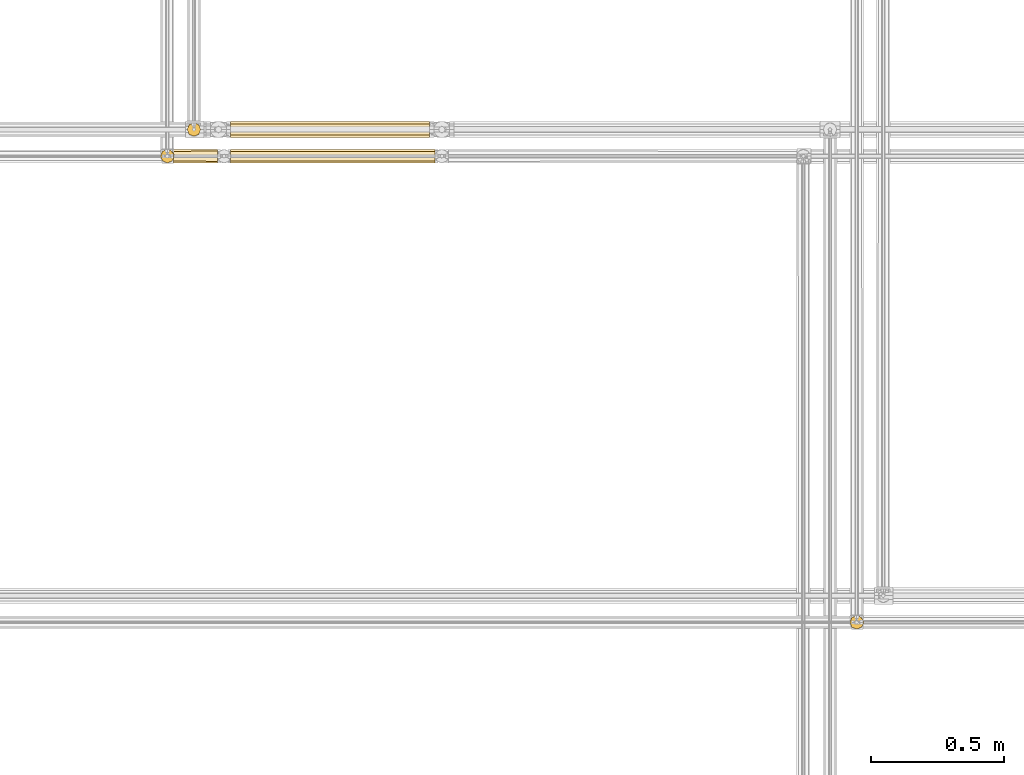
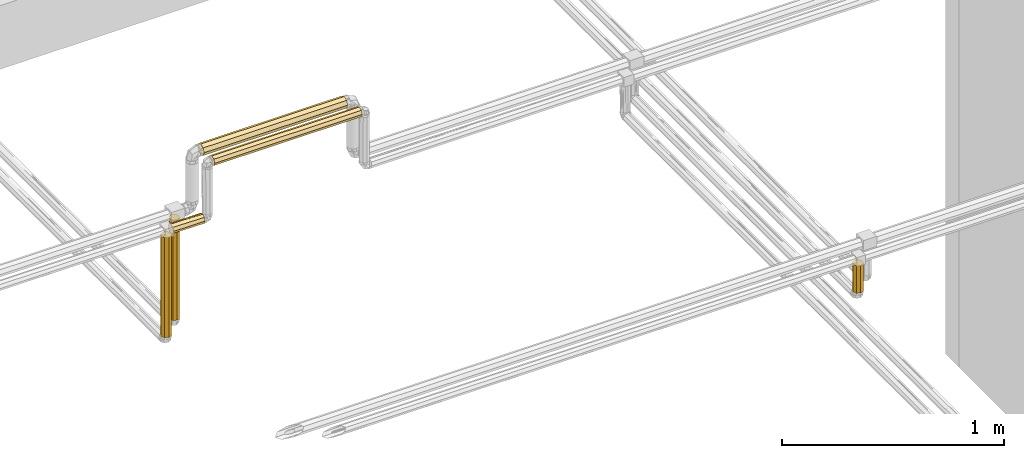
# One storey, part 204 of 652: 6 coverings.
"""IFC2X3 building model written with IfcOpenShell, lengths in millimetres."""

from ifc_helpers import new_model, entity, si_unit, converted_unit, direction, frame, origin, place, context, subcontext, project, spatial, faceted_brep, material, type_object, element, save


model = new_model("IFC2X3")

# Units and contexts
model_context = context("Model", 3, precision=0.01, world=frame((0.0, 0.0, 308426.39999999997)), true_north=direction((6.123233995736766e-17, 1.0)))
plan_context = context("Plan", 3, precision=0.01, world=frame((0.0, 0.0, 308426.39999999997)), true_north=direction((6.123233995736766e-17, 1.0)))
body_context = subcontext(model_context, "Body", "Model", "MODEL_VIEW")
ifc_project = project(units=[si_unit("LENGTHUNIT", "METRE", prefix="MILLI"), si_unit("AREAUNIT", "SQUARE_METRE"), si_unit("VOLUMEUNIT", "CUBIC_METRE"), converted_unit("PLANEANGLEUNIT", "DEGREE", entity("IfcPlaneAngleMeasure", 0.017453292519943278), si_unit("PLANEANGLEUNIT", "RADIAN"), dimensions=[0, 0, 0, 0, 0, 0, 0])], contexts=[model_context, plan_context])

# Site, building, storey
site_placement = place(None, origin())
site = spatial("IfcSite", under=ifc_project, at=site_placement, Name="Default", CompositionType="ELEMENT")
building_placement = place(site_placement, origin())
building = spatial("IfcBuilding", under=site, at=building_placement, CompositionType="ELEMENT")
storey_placement = place(building_placement, frame((0.0, 0.0, 1730.6999999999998)))
storey = spatial("IfcBuildingStorey", under=building, at=storey_placement, Name="EG_Produktion_FFB", CompositionType="ELEMENT", Elevation=1730.6999999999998)

# Coverings
ifc_material = material(Name="Dämmung - Armaflex-Schlauch")
covering_type = type_object("IfcCoveringType", Name="Rohrdämmung außen:Armaflex-Schlauch", PredefinedType="INSULATION")
covering_1_placement = place(storey_placement, frame((40393.05472776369, 68038.05472776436, 3723.371727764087)))
element("IfcCovering", 1, at=covering_1_placement, inside=storey, type_object=covering_type, material=ifc_material, Name="Rohrdämmung außen:Armaflex-Schlauch", ObjectType="Rohrdämmung außen:Armaflex-Schlauch", PredefinedType="INSULATION", context=body_context, shape_type="Brep", body=[
    faceted_brep([(50.9442722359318, 35.11047272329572, 152.6292722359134), (47.96725702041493, 38.63935937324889, 152.62927223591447), (44.990241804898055, 42.16824602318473, 152.62927223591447), (42.01322658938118, 45.697132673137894, 152.6292722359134), (39.03621137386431, 49.22601932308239, 152.6292722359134), (32.990741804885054, 50.760645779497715, 152.6292722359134), (26.94527223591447, 52.29527223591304, 152.6292722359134), (22.463983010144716, 50.43906146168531, 152.6292722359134), (17.982693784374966, 48.582850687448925, 152.6292722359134), (13.501404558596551, 46.7266399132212, 152.6292722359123), (9.020115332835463, 44.87042913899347, 152.6292722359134), (7.1639045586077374, 40.38913991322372, 152.6292722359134), (5.30769378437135, 35.90785068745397, 152.6292722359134), (3.4514830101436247, 31.42656146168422, 152.6292722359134), (1.5952722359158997, 26.94527223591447, 152.6292722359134), (3.515826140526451, 22.30864495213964, 152.6292722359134), (5.30769378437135, 17.982693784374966, 152.6292722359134), (7.1639045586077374, 13.501404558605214, 152.6292722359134), (9.020115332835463, 9.020115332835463, 152.6292722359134), (13.501404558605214, 7.1639045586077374, 152.6292722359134), (17.982693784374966, 5.307693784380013, 152.6292722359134), (22.308644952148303, 3.515826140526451, 152.6292722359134), (26.94527223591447, 1.5952722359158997, 152.6292722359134), (31.63100083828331, 3.4282382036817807, 152.6292722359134), (36.316729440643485, 5.261204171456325, 152.6292722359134), (44.146028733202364, 8.323873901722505, 152.6292722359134), (47.54515048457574, 13.55197282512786, 152.6292722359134), (50.9442722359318, 18.780071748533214, 152.6292722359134), (50.43906146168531, 22.463983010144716, 1.595272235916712), (48.58285068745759, 17.982693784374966, 1.595272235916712), (46.7266399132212, 13.501404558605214, 1.595272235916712), (44.87042913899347, 9.020115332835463, 1.595272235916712), (40.38913991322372, 7.163904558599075, 1.595272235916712), (35.90785068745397, 5.307693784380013, 1.595272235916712), (31.581899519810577, 3.515826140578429, 1.595272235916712), (26.94527223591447, 1.5952722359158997, 1.595272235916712), (22.308644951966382, 3.5158261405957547, 1.595272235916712), (17.67201766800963, 5.436380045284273, 1.595272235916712), (13.346066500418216, 7.2282476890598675, 1.595272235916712), (9.020115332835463, 9.020115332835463, 1.595272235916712), (7.1639045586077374, 13.501404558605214, 1.595272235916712), (5.30769378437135, 17.982693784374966, 1.595272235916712), (3.4514830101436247, 22.463983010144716, 1.595272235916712), (1.5952722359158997, 26.94527223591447, 1.595272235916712), (3.322427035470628, 31.686350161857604, 1.595272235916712), (4.565344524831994, 35.09818601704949, 1.595272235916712), (6.0503806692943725, 39.174642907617, 1.595272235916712), (7.535416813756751, 43.25109979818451, 1.595272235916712), (15.045383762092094, 47.58168601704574, 1.595272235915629), (22.55535071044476, 51.91227223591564, 1.595272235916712), (31.335193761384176, 51.91227223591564, 1.595272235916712), (38.845160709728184, 47.58168601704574, 1.595272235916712), (46.355127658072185, 43.25109979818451, 1.595272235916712), (47.84016380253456, 39.174642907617, 1.595272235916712), (49.32519994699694, 35.09818601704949, 1.595272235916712), (50.81023609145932, 31.02172912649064, 1.595272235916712), (52.29527223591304, 26.94527223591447, 1.595272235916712), (52.29527223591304, 26.94527223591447, 151.2782722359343), (51.955241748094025, 31.083378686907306, 151.61830272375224), (29.148570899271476, 52.19934072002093, 1.8823407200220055), (26.94527223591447, 52.29527223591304, 1.978272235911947), (24.74197357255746, 52.19934072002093, 1.8823407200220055), (51.955241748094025, 22.807165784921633, 151.61830272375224)], [[[0, 1, 2, 3, 4, 5, 6, 7, 8, 9, 10, 11, 12, 13, 14, 15, 16, 17, 18, 19, 20, 21, 22, 23, 24, 25, 26, 27]], [[28, 29, 30, 31, 32, 33, 34, 35, 36, 37, 38, 39, 40, 41, 42, 43, 44, 45, 46, 47, 48, 49, 50, 51, 52, 53, 54, 55, 56]], [[54, 0, 55]], [[51, 3, 52]], [[57, 56, 58]], [[53, 52, 2]], [[51, 50, 5]], [[1, 54, 53]], [[3, 51, 4]], [[51, 5, 4]], [[58, 56, 55]], [[5, 59, 6]], [[6, 59, 60]], [[54, 1, 0]], [[55, 0, 58]], [[53, 2, 1]], [[2, 52, 3]], [[59, 5, 50]], [[49, 8, 7]], [[46, 45, 12]], [[7, 61, 49]], [[8, 49, 48]], [[46, 12, 11]], [[43, 14, 13]], [[45, 13, 12]], [[11, 47, 46]], [[48, 10, 9, 8]], [[13, 45, 44, 43]], [[61, 6, 60]], [[10, 48, 47]], [[10, 47, 11]], [[6, 61, 7]], [[14, 43, 42, 41, 40, 39, 18, 17, 16, 15]], [[18, 39, 38, 37, 36, 35, 22, 21, 20, 19]], [[25, 32, 31]], [[28, 56, 62]], [[33, 24, 23]], [[22, 35, 23]], [[26, 31, 30, 29]], [[33, 23, 35, 34]], [[28, 27, 29]], [[27, 28, 62]], [[24, 32, 25]], [[56, 57, 62]], [[31, 26, 25]], [[24, 33, 32]], [[26, 29, 27]], [[0, 27, 62, 57, 58]], [[49, 61, 60, 59, 50]]]),
])
covering_2_placement = place(storey_placement, frame((37905.36716089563, 69888.05472776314, 3323.371727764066)))
element("IfcCovering", 2, at=covering_2_placement, inside=storey, type_object=covering_type, material=ifc_material, Name="Rohrdämmung außen:Armaflex-Schlauch", ObjectType="Rohrdämmung außen:Armaflex-Schlauch", PredefinedType="INSULATION", context=body_context, shape_type="Brep", body=[
    faceted_brep([(52.29527223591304, 26.94527223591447, 552.6292722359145), (50.18963852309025, 32.02872170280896, 552.6292722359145), (48.58285068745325, 35.90785068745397, 552.6292722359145), (46.72663991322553, 40.38913991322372, 552.6292722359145), (44.87042913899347, 44.87042913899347, 552.6292722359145), (40.38913991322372, 46.7266399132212, 552.6292722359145), (35.90785068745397, 48.582850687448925, 552.6292722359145), (31.42656146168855, 50.43906146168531, 552.6292722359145), (26.94527223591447, 52.29527223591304, 552.6292722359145), (22.463983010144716, 50.43906146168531, 552.6292722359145), (17.982693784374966, 48.582850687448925, 552.6292722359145), (13.501404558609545, 46.72663991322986, 552.6292722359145), (9.020115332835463, 44.87042913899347, 552.6292722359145), (7.1639045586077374, 40.38913991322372, 552.6292722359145), (5.307693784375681, 35.90785068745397, 552.6292722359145), (3.4514830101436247, 31.42656146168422, 552.6292722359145), (1.5952722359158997, 26.94527223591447, 552.6292722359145), (3.7009059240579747, 21.861822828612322, 552.6292722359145), (5.307693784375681, 17.982693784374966, 552.6292722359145), (7.1639045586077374, 13.501404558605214, 552.6292722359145), (9.020115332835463, 9.020115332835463, 552.6292722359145), (13.501404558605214, 7.1639045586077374, 552.6292722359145), (17.982693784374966, 5.307693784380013, 552.6292722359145), (22.463983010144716, 3.4514830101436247, 552.6292722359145), (26.94527223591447, 1.5952722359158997, 552.6292722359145), (32.02872164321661, 3.7009059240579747, 552.6292722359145), (35.90785068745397, 5.307693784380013, 552.6292722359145), (40.38913991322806, 7.1639045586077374, 552.6292722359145), (44.87042913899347, 9.020115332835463, 552.6292722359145), (46.72663991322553, 13.501404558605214, 552.6292722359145), (48.58285068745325, 17.982693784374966, 552.6292722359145), (50.43906146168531, 22.463983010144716, 552.6292722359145), (31.33519376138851, 51.91227223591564, 1.595272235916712), (38.84516070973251, 47.5816860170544, 1.595272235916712), (46.355127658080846, 43.251099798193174, 1.595272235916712), (48.508077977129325, 37.341203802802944, 1.595272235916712), (50.40167510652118, 32.143238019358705, 1.595272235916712), (52.29527223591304, 26.94527223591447, 1.595272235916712), (50.1896385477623, 21.86182282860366, 1.595272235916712), (48.08400485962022, 16.77837342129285, 1.595272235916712), (44.87042913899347, 9.020115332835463, 1.595272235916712), (40.38913991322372, 7.163904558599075, 1.595272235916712), (35.90785068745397, 5.30769378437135, 1.595272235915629), (31.42656146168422, 3.4514830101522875, 1.595272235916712), (26.94527223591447, 1.5952722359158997, 1.595272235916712), (21.86182282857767, 3.7009059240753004, 1.595272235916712), (16.778373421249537, 5.806539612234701, 1.5952722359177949), (9.020115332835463, 9.020115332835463, 1.595272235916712), (7.1639045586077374, 13.501404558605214, 1.595272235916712), (5.307693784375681, 17.982693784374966, 1.595272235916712), (3.4514830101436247, 22.463983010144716, 1.595272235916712), (1.5952722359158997, 26.94527223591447, 1.595272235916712), (3.488869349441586, 32.14323797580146, 1.595272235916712), (4.565344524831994, 35.09818601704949, 1.595272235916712), (6.0503806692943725, 39.17464290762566, 1.595272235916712), (7.535416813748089, 43.251099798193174, 1.595272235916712), (15.045383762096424, 47.5816860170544, 1.595272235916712), (22.55535071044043, 51.91227223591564, 1.595272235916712), (29.148570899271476, 52.19934072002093, 1.8823407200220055), (26.94527223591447, 52.29527223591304, 1.978272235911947), (24.74197357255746, 52.19934072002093, 1.8823407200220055)], [[[0, 1, 2, 3, 4, 5, 6, 7, 8, 9, 10, 11, 12, 13, 14, 15, 16, 17, 18, 19, 20, 21, 22, 23, 24, 25, 26, 27, 28, 29, 30, 31]], [[32, 33, 34, 35, 36, 37, 38, 39, 40, 41, 42, 43, 44, 45, 46, 47, 48, 49, 50, 51, 52, 53, 54, 55, 56, 57]], [[3, 2, 35]], [[35, 2, 36]], [[36, 2, 1, 0]], [[58, 7, 32]], [[33, 32, 6]], [[35, 34, 3]], [[8, 58, 59]], [[33, 6, 5, 4]], [[7, 6, 32]], [[34, 4, 3]], [[33, 4, 34]], [[36, 0, 37]], [[7, 58, 8]], [[57, 10, 9]], [[54, 53, 14]], [[9, 60, 57]], [[10, 57, 56]], [[54, 14, 13]], [[51, 16, 15]], [[53, 15, 14]], [[13, 55, 54]], [[56, 12, 11, 10]], [[15, 53, 52, 51]], [[60, 8, 59]], [[12, 56, 55]], [[12, 55, 13]], [[8, 60, 9]], [[44, 24, 23, 22, 21, 20, 47, 46, 45]], [[19, 18, 17, 16, 51, 50, 49, 48, 47, 20]], [[37, 0, 31, 30, 29, 28, 40, 39, 38]], [[27, 26, 25, 24, 44, 43, 42, 41, 40, 28]], [[57, 60, 59, 58, 32]]]),
])
covering_3_placement = place(storey_placement, frame((37805.36716089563, 69788.05472776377, 3323.371727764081)))
element("IfcCovering", 3, at=covering_3_placement, inside=storey, type_object=covering_type, material=ifc_material, Name="Rohrdämmung außen:Armaflex-Schlauch", ObjectType="Rohrdämmung außen:Armaflex-Schlauch", PredefinedType="INSULATION", context=body_context, shape_type="Brep", body=[
    faceted_brep([(26.94527223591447, 1.5952722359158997, 552.6292722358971), (32.08255475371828, 3.604877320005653, 552.6292722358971), (37.21983727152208, 5.614482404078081, 552.6292722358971), (44.14602873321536, 8.323873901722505, 552.6292722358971), (47.545150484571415, 13.55197282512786, 552.6292722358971), (50.9442722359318, 18.780071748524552, 552.6292722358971), (50.9442722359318, 35.11047272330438, 552.6292722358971), (47.96725702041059, 38.63935937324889, 552.6292722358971), (44.99024180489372, 42.16824602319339, 552.6292722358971), (42.013226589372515, 45.697132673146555, 552.6292722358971), (39.03621137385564, 49.22601932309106, 552.6292722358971), (32.99074180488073, 50.760645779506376, 552.6292722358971), (26.94527223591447, 52.29527223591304, 552.6292722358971), (22.463983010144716, 50.43906146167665, 552.6292722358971), (17.982693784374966, 48.58285068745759, 552.6292722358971), (13.501404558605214, 46.7266399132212, 552.6292722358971), (9.020115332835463, 44.87042913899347, 552.6292722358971), (7.1639045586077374, 40.389139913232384, 552.6292722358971), (5.307693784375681, 35.90785068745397, 552.6292722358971), (3.4514830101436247, 31.42656146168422, 552.6292722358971), (1.5952722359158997, 26.94527223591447, 552.6292722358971), (3.7009059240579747, 21.861822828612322, 552.6292722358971), (5.307693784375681, 17.982693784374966, 552.6292722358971), (7.1639045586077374, 13.501404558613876, 552.6292722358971), (9.020115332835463, 9.020115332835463, 552.6292722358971), (13.501404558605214, 7.1639045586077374, 552.6292722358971), (17.982693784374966, 5.30769378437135, 552.6292722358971), (22.463983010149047, 3.4514830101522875, 552.6292722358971), (22.55535071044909, 51.91227223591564, 1.595272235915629), (31.335193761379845, 51.91227223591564, 1.595272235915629), (38.845160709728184, 47.5816860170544, 1.595272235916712), (46.35512765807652, 43.251099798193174, 1.595272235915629), (47.840163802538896, 39.17464290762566, 1.595272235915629), (49.32519994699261, 35.098186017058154, 1.595272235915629), (50.81023609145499, 31.02172912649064, 1.595272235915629), (52.29527223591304, 26.94527223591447, 1.595272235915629), (50.43906146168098, 22.463983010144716, 1.595272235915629), (48.58285068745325, 17.982693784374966, 1.595272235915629), (46.72663991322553, 13.501404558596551, 1.595272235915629), (44.87042913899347, 9.020115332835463, 1.595272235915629), (40.38913991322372, 7.1639045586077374, 1.595272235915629), (35.90785068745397, 5.30769378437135, 1.595272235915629), (31.42656146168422, 3.4514830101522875, 1.595272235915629), (26.94527223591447, 1.5952722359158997, 1.595272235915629), (21.86182282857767, 3.7009059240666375, 1.595272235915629), (16.77837342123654, 5.806539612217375, 1.595272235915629), (9.020115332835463, 9.020115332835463, 1.595272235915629), (7.1639045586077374, 13.501404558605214, 1.595272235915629), (5.307693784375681, 17.982693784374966, 1.595272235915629), (3.4514830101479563, 22.46398301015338, 1.595272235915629), (1.5952722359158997, 26.94527223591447, 1.595272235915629), (3.488869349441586, 32.14323797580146, 1.595272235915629), (4.565344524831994, 35.098186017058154, 1.595272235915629), (6.050380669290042, 39.174642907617, 1.595272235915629), (7.53541681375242, 43.251099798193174, 1.595272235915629), (15.045383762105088, 47.58168601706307, 1.595272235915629), (52.29527223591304, 26.94527223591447, 551.2782722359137), (51.955241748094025, 31.083378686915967, 551.6183027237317), (29.148570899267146, 52.19934072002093, 1.8823407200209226), (26.94527223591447, 52.29527223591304, 1.978272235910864), (24.74197357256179, 52.19934072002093, 1.8823407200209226), (51.955241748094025, 22.807165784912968, 551.6183027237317)], [[[0, 1, 2, 3, 4, 5, 6, 7, 8, 9, 10, 11, 12, 13, 14, 15, 16, 17, 18, 19, 20, 21, 22, 23, 24, 25, 26, 27]], [[28, 29, 30, 31, 32, 33, 34, 35, 36, 37, 38, 39, 40, 41, 42, 43, 44, 45, 46, 47, 48, 49, 50, 51, 52, 53, 54, 55]], [[33, 6, 34]], [[30, 9, 31]], [[56, 35, 57]], [[32, 31, 8]], [[30, 29, 11]], [[7, 33, 32]], [[9, 30, 10]], [[30, 11, 10]], [[57, 35, 34]], [[11, 58, 12]], [[12, 58, 59]], [[33, 7, 6]], [[34, 6, 57]], [[32, 8, 7]], [[8, 31, 9]], [[58, 11, 29]], [[28, 14, 13]], [[53, 52, 18]], [[13, 60, 28]], [[14, 28, 55]], [[53, 18, 17]], [[50, 20, 19]], [[52, 19, 18]], [[17, 54, 53]], [[55, 16, 15, 14]], [[19, 52, 51, 50]], [[60, 12, 59]], [[16, 55, 54]], [[16, 54, 17]], [[12, 60, 13]], [[43, 0, 27, 26, 25, 24, 46, 45, 44]], [[23, 22, 21, 20, 50, 49, 48, 47, 46, 24]], [[3, 40, 39]], [[36, 35, 61]], [[2, 1, 41]], [[4, 39, 38, 37]], [[4, 37, 5]], [[36, 5, 37]], [[5, 36, 61]], [[0, 42, 1]], [[2, 41, 40]], [[35, 56, 61]], [[39, 4, 3]], [[3, 2, 40]], [[42, 0, 43]], [[42, 41, 1]], [[6, 5, 61, 56, 57]], [[28, 60, 59, 58, 29]]]),
])
covering_4_placement = place(storey_placement, frame((38070.37793313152, 69883.29222776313, 4231.707772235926)))
element("IfcCovering", 4, at=covering_4_placement, inside=storey, type_object=covering_type, material=ifc_material, Name="Rohrdämmung außen:Armaflex-Schlauch", ObjectType="Rohrdämmung außen:Armaflex-Schlauch", PredefinedType="INSULATION", context=body_context, shape_type="Brep", body=[
    faceted_brep([(746.5565668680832, 61.82027223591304, -31.70777223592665), (746.5565668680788, 59.80816199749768, -26.850108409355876), (746.5565668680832, 57.410398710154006, -21.06139576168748), (746.5565668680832, 55.20546194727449, -15.738207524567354), (746.5565668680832, 53.000525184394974, -10.415019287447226), (746.5565668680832, 47.67733694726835, -8.210082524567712), (746.5565668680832, 42.35414871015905, -6.005145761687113), (746.5565668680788, 37.03096047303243, -3.8002089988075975), (746.5565668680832, 31.70777223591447, -1.595272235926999), (746.5565668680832, 26.850108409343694, -3.6073824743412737), (746.5565668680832, 21.061395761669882, -6.005145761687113), (746.5565668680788, 15.738207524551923, -8.210082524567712), (746.5565668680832, 10.415019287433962, -10.415019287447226), (746.5565668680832, 8.210082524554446, -15.738207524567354), (746.5565668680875, 6.005145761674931, -21.0613957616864), (746.5565668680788, 3.8002089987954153, -26.384583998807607), (746.5565668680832, 1.5952722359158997, -31.70777223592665), (746.5565668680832, 3.8002089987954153, -37.030960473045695), (746.5565668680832, 6.005145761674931, -42.35414871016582), (746.5565668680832, 8.210082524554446, -47.67733694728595), (746.5565668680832, 10.415019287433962, -53.00052518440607), (746.5565668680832, 15.738207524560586, -55.20546194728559), (746.5565668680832, 21.061395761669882, -57.41039871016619), (746.5565668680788, 26.384583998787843, -59.615335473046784), (746.5565668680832, 31.70777223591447, -61.8202722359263), (746.5565668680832, 36.56543606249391, -59.808161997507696), (746.5565668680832, 42.35414871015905, -57.41039871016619), (746.5565668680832, 47.67733694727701, -55.20546194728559), (746.5565668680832, 53.000525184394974, -53.00052518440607), (746.5565668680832, 55.20546194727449, -47.67733694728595), (746.5565668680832, 57.410398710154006, -42.35414871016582), (746.5565668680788, 59.61533547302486, -37.030960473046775), (0.0, 47.677336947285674, -55.20546194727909), (0.0, 42.35414871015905, -57.41039871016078), (0.0, 37.03096047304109, -59.61533547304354), (0.0, 31.70777223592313, -61.820272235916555), (0.0, 26.850108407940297, -59.808161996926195), (0.0, 21.992444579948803, -57.796051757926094), (0.0, 16.20373193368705, -55.398288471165), (0.0, 10.415019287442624, -53.00052518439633), (0.0, 8.210082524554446, -47.677336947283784), (0.0, 6.005145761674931, -42.35414871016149), (0.0, 3.8002089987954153, -37.030960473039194), (0.0, 1.5952722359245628, -31.707772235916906), (0.0, 3.60738247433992, -26.850108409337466), (0.0, 5.619492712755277, -21.992444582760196), (0.0, 8.017256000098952, -16.203731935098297), (0.0, 10.415019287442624, -10.415019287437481), (0.0, 15.738207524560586, -8.21008252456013), (0.0, 21.06139576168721, -6.005145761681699), (0.0, 26.38458399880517, -3.800208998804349), (0.0, 31.70777223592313, -1.5952722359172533), (0.0, 36.56543606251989, -3.6073824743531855), (0.0, 41.423099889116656, -5.619492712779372), (0.0, 47.211812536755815, -8.0172560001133), (0.0, 53.000525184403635, -10.415019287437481), (0.0, 55.20546194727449, -15.738207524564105), (0.0, 57.410398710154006, -21.061395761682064), (0.0, 59.615335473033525, -26.384583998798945), (0.0, 61.8202722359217, -31.707772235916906), (0.0, 59.80816199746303, -36.56543606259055), (0.0, 57.79605175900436, -41.42309988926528), (0.0, 55.39828847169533, -47.211812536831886), (0.0, 53.000525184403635, -53.00052518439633)], [[[0, 1, 2, 3, 4, 5, 6, 7, 8, 9, 10, 11, 12, 13, 14, 15, 16, 17, 18, 19, 20, 21, 22, 23, 24, 25, 26, 27, 28, 29, 30, 31]], [[32, 33, 34, 35, 36, 37, 38, 39, 40, 41, 42, 43, 44, 45, 46, 47, 48, 49, 50, 51, 52, 53, 54, 55, 56, 57, 58, 59, 60, 61, 62, 63]], [[41, 40, 39, 20, 19, 18, 17, 16, 43, 42]], [[37, 36, 35, 24, 23, 22, 21, 20, 39, 38]], [[33, 32, 63, 28, 27, 26, 25, 24, 35, 34]], [[28, 63, 62, 61, 60, 59, 0, 31, 30, 29]], [[57, 56, 55, 4, 3, 2, 1, 0, 59, 58]], [[4, 55, 54, 53, 52, 51, 8, 7, 6, 5]], [[49, 48, 47, 12, 11, 10, 9, 8, 51, 50]], [[12, 47, 46, 45, 44, 43, 16, 15, 14, 13]]]),
])
covering_5_placement = place(storey_placement, frame((38068.78266089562, 69788.05472776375, 4173.054727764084)))
element("IfcCovering", 5, at=covering_5_placement, inside=storey, type_object=covering_type, material=ifc_material, Name="Rohrdämmung außen:Armaflex-Schlauch", ObjectType="Rohrdämmung außen:Armaflex-Schlauch", PredefinedType="INSULATION", context=body_context, shape_type="Brep", body=[
    faceted_brep([(1.5952722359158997, 6.050380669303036, 14.71590156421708), (1.5952722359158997, 4.565344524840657, 18.792358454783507), (1.5952722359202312, 3.0803083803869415, 22.868815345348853), (1.5952722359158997, 1.5952722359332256, 26.94527223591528), (1.5952722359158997, 3.1068218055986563, 30.59447570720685), (1.5952722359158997, 5.307693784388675, 35.90785068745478), (1.5952722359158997, 7.163904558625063, 40.38913991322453), (1.5952722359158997, 9.020115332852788, 44.87042913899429), (1.5952722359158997, 13.501404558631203, 46.726639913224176), (1.5952722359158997, 17.982693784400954, 48.58285068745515), (1.5952722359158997, 22.463983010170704, 50.43906146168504), (1.5952722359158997, 26.945272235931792, 52.29527223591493), (1.5952722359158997, 30.594475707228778, 50.783722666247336), (1.5952722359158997, 35.907850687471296, 48.58285068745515), (1.5952722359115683, 40.389139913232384, 46.726639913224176), (1.5952722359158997, 44.8704291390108, 44.87042913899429), (1.5952722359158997, 46.72663991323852, 40.38913991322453), (1.5952722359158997, 48.58285068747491, 35.90785068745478), (1.5952722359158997, 50.439061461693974, 31.426561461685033), (1.5952722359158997, 52.29527223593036, 26.94527223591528), (1.5952722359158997, 50.810236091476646, 22.868815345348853), (1.5952722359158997, 49.32519994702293, 18.792358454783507), (1.5952722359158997, 47.840163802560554, 14.715901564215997), (1.5952722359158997, 46.35512765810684, 10.63944467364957), (1.5952722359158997, 38.8451607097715, 6.308858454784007), (1.5952722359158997, 31.335193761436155, 1.9782722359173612), (1.5952722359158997, 22.555350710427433, 1.9782722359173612), (1.5952722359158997, 15.045383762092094, 6.308858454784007), (1.5952722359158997, 7.535416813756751, 10.639444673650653), (769.2020891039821, 52.2952722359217, 26.945272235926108), (769.2020891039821, 49.27217309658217, 34.243679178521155), (769.2020891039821, 47.07130111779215, 39.55705415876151), (769.2020891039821, 44.870429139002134, 44.87042913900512), (769.2020891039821, 40.389139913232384, 46.72663991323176), (769.2020891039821, 35.907850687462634, 48.582850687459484), (769.2020891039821, 31.426561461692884, 50.43906146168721), (769.2020891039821, 26.94527223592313, 52.29527223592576), (769.2020891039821, 19.646865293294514, 49.2721730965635), (769.2020891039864, 14.333490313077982, 47.071301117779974), (769.2020891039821, 9.020115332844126, 44.87042913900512), (769.2020891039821, 7.163904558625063, 40.38913991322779), (769.2020891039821, 5.307693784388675, 35.9078506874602), (769.2020891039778, 3.4514830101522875, 31.426561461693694), (769.2020891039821, 1.5952722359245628, 26.945272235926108), (769.2020891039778, 2.9546092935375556, 23.213862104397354), (769.2020891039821, 4.565344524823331, 18.792358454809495), (769.2020891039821, 6.050380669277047, 14.715901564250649), (769.2020891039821, 7.5354168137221, 10.6394446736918), (769.2020891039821, 15.045383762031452, 6.308858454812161), (769.2020891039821, 22.555350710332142, 1.9782722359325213), (769.2020891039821, 31.335193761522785, 1.9782722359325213), (769.2020891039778, 38.845160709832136, 6.308858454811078), (769.2020891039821, 46.35512765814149, 10.639444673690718), (769.2020891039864, 47.96586288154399, 15.060948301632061), (769.2020891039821, 49.57659810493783, 19.482451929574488), (768.9150206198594, 29.148570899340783, 1.6912037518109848), (1.8823407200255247, 29.14857089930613, 1.6912037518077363), (768.819089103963, 26.94527223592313, 1.595272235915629), (1.978272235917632, 26.945272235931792, 1.595272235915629), (768.9150206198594, 24.741973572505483, 1.6912037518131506), (1.8823407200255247, 24.74197357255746, 1.6912037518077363)], [[[0, 1, 2, 3, 4, 5, 6, 7, 8, 9, 10, 11, 12, 13, 14, 15, 16, 17, 18, 19, 20, 21, 22, 23, 24, 25, 26, 27, 28]], [[29, 30, 31, 32, 33, 34, 35, 36, 37, 38, 39, 40, 41, 42, 43, 44, 45, 46, 47, 48, 49, 50, 51, 52, 53, 54]], [[21, 20, 19, 29, 54, 53, 52, 23, 22]], [[25, 24, 23, 52, 51, 50]], [[50, 55, 56, 25]], [[55, 57, 58, 56]], [[57, 59, 60, 58]], [[44, 43, 3, 2, 1, 0, 28, 47, 46, 45]], [[26, 60, 59, 49]], [[49, 48, 47, 28, 27, 26]], [[41, 40, 39, 7, 6, 5, 4, 3, 43, 42]], [[7, 39, 38, 37, 36, 11, 10, 9, 8]], [[34, 33, 32, 15, 14, 13, 12, 11, 36, 35]], [[15, 32, 31, 30, 29, 19, 18, 17, 16]], [[26, 25, 56, 58, 60]], [[57, 55, 50, 49, 59]]]),
])
covering_6_placement = place(storey_placement, frame((37854.71616089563, 69788.05472776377, 3873.0547277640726)))
element("IfcCovering", 6, at=covering_6_placement, inside=storey, type_object=covering_type, material=ifc_material, Name="Rohrdämmung außen:Armaflex-Schlauch", ObjectType="Rohrdämmung außen:Armaflex-Schlauch", PredefinedType="INSULATION", context=body_context, shape_type="Brep", body=[
    faceted_brep([(1.5952722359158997, 45.56667057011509, 9.74451573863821), (1.5952722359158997, 40.33857164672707, 6.345393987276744), (1.5952722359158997, 35.110472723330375, 2.9462722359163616), (1.5952722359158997, 18.780071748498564, 2.9462722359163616), (1.5952722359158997, 15.25118509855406, 5.923287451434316), (1.5952722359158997, 11.722298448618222, 8.900302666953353), (1.5952722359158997, 8.193411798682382, 11.877317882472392), (1.5952722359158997, 4.66452514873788, 14.854333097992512), (1.5952722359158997, 3.1298986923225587, 20.899802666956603), (1.5952722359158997, 1.5952722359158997, 26.945272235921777), (1.5952722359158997, 3.4514830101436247, 31.42656146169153), (1.5952722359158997, 5.30769378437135, 35.90785068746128), (1.5952722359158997, 7.1639045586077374, 40.389139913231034), (1.5952722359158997, 9.020115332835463, 44.870429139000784), (1.5952722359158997, 13.501404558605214, 46.72663991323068), (1.5952722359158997, 17.982693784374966, 48.58285068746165), (1.5952722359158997, 22.463983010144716, 50.43906146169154), (1.5952722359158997, 26.94527223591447, 52.29527223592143), (1.5952722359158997, 31.42656146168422, 50.43906146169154), (1.5952722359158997, 35.90785068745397, 48.58285068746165), (1.5952722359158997, 40.38913991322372, 46.72663991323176), (1.5952722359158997, 44.87042913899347, 44.870429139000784), (1.5952722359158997, 46.7266399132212, 40.389139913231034), (1.5952722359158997, 48.58285068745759, 35.90785068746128), (1.5952722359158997, 50.43906146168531, 31.42656146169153), (1.5952722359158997, 52.29527223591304, 26.945272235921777), (1.5952722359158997, 50.608584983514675, 22.63348530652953), (1.5952722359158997, 48.921897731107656, 18.321698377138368), (1.5952722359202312, 47.244284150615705, 14.033107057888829), (165.7277722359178, 46.35512765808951, 43.25109979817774), (165.7277722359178, 38.84516070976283, 47.58168601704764), (165.7277722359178, 31.33519376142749, 51.912272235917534), (165.7277722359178, 22.555350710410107, 51.912272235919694), (165.72777223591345, 15.045383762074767, 47.581686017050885), (165.7277722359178, 7.535416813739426, 43.251099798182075), (165.72777223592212, 4.773912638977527, 35.6707100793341), (165.72777223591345, 3.18459243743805, 31.307991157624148), (165.7277722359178, 1.5952722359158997, 26.94527223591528), (165.7277722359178, 3.362557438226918, 22.67866833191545), (165.7277722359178, 5.30769378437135, 17.98269378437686), (165.7277722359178, 7.1639045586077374, 13.501404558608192), (165.7277722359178, 9.020115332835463, 9.020115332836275), (165.7277722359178, 13.501404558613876, 7.163904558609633), (165.7277722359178, 17.982693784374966, 5.307693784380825), (165.7277722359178, 22.46398301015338, 3.451483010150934), (165.7277722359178, 26.94527223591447, 1.595272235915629), (165.7277722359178, 31.42656146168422, 3.451483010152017), (165.7277722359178, 35.90785068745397, 5.307693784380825), (165.7277722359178, 40.389139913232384, 7.1639045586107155), (165.7277722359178, 44.87042913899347, 9.020115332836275), (165.7277722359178, 46.7266399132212, 13.501404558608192), (165.7277722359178, 48.58285068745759, 17.98269378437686), (165.7277722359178, 50.43906146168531, 22.463983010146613), (165.7277722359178, 52.29527223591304, 26.94527223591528), (165.72777223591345, 50.70595203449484, 31.30799115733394), (165.7277722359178, 49.32519994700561, 35.098186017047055), (165.72777223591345, 47.84016380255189, 39.1746429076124), (2.606241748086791, 31.083378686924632, 1.9353027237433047), (2.946272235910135, 26.94527223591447, 1.5952722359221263), (2.606241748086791, 22.807165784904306, 1.9353027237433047), (165.44070375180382, 24.741973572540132, 52.19934072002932), (165.34477223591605, 26.94527223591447, 52.29527223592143), (165.44070375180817, 29.148570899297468, 52.19934072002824)], [[[0, 1, 2, 3, 4, 5, 6, 7, 8, 9, 10, 11, 12, 13, 14, 15, 16, 17, 18, 19, 20, 21, 22, 23, 24, 25, 26, 27, 28]], [[29, 30, 31, 32, 33, 34, 35, 36, 37, 38, 39, 40, 41, 42, 43, 44, 45, 46, 47, 48, 49, 50, 51, 52, 53, 54, 55, 56]], [[50, 49, 0]], [[51, 27, 52]], [[50, 0, 28]], [[26, 53, 52]], [[1, 49, 48, 47]], [[53, 26, 25]], [[49, 1, 0]], [[2, 46, 57]], [[52, 27, 26]], [[46, 2, 47]], [[45, 58, 57]], [[46, 45, 57]], [[28, 27, 51]], [[28, 51, 50]], [[1, 47, 2]], [[44, 43, 3]], [[38, 37, 9]], [[42, 5, 4]], [[45, 59, 58]], [[41, 5, 42]], [[3, 59, 44]], [[39, 8, 7]], [[43, 42, 4]], [[6, 40, 7]], [[38, 9, 8]], [[6, 5, 41]], [[8, 39, 38]], [[43, 4, 3]], [[59, 45, 44]], [[40, 6, 41]], [[40, 39, 7]], [[35, 10, 36]], [[10, 35, 12, 11]], [[9, 37, 36]], [[33, 32, 15]], [[60, 16, 32]], [[17, 60, 61]], [[35, 34, 12]], [[16, 60, 17]], [[16, 15, 32]], [[33, 15, 14, 13]], [[33, 13, 34]], [[34, 13, 12]], [[9, 36, 10]], [[31, 19, 18]], [[56, 55, 23]], [[18, 62, 31]], [[19, 31, 30]], [[56, 23, 22]], [[54, 53, 25]], [[55, 24, 23]], [[22, 29, 56]], [[30, 21, 20, 19]], [[24, 55, 54]], [[62, 17, 61]], [[21, 30, 29]], [[21, 29, 22]], [[54, 25, 24]], [[17, 62, 18]], [[3, 2, 57, 58, 59]], [[61, 60, 32, 31, 62]]]),
])

save(model, "model.ifc")
